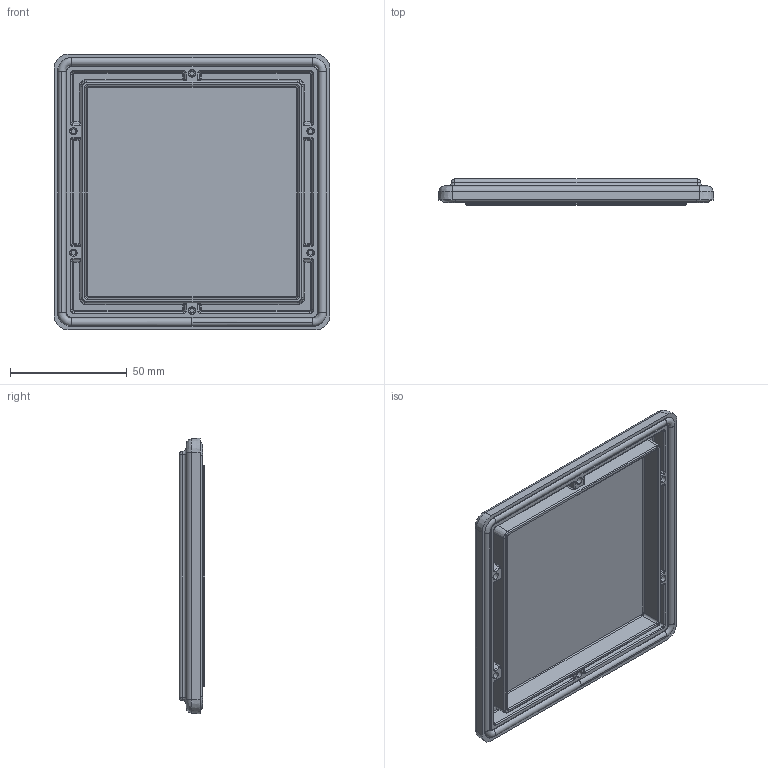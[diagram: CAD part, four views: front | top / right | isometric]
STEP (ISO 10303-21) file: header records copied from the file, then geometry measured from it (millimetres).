
FILE_DESCRIPTION (( 'STEP AP214' ), '1' );
FILE_NAME ('4.423.004 J.STEP', '2016-10-20T12:17:19', ( '' ), ( '' ), 'SwSTEP 2.0', 'SolidWorks 2015', '' );
FILE_SCHEMA (( 'AUTOMOTIVE_DESIGN' ));
Length unit declared in the file: millimetre
Products named in the file (3): 4.423.004.02 J_A; 4.423.004.01 J_A; 4.423.004 J
Assembly tree (2 placements, depth 2):
  4.423.004 J
    4.423.004.01 J_A
    4.423.004.02 J_A
Bounding box: 118 x 11 x 118 mm (x, y, z)
Volume: 56820.6 mm3; surface area: 45109.5 mm2
Topology: 2 solids, 2 shells, 365 faces, 822 edges, 466 vertices
Faces by surface type: cylinder 136, bspline 124, plane 65, cone 32, torus 8
Entity records: 17628 total; most frequent: CARTESIAN_POINT 6276, ORIENTED_EDGE 1636, DIRECTION 1458, EDGE_CURVE 818, AXIS2_PLACEMENT_3D 564, VERTEX_POINT 466, EDGE_LOOP 376, ADVANCED_FACE 365
